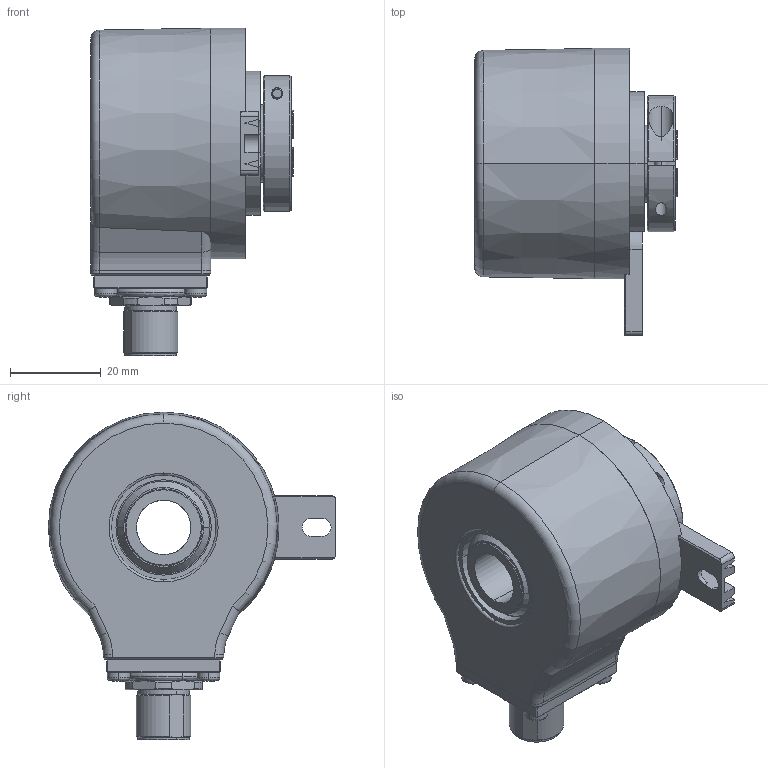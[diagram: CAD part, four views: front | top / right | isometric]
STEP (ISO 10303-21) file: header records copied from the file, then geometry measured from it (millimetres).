
FILE_DESCRIPTION (( 'STEP AP203' ), '1' );
FILE_NAME ('8.5020.257R.XXXX.STEP', '2017-04-05T12:06:19', ( '' ), ( '' ), 'SwSTEP 2.0', 'SolidWorks 2017', '' );
FILE_SCHEMA (( 'CONFIG_CONTROL_DESIGN' ));
Length unit declared in the file: millimetre
Products named in the file (1): 8.5020.257R.XXXX
Bounding box: 44.7 x 63.3 x 72.2 mm (x, y, z)
Surface area: 38749.7 mm2 (no closed solid volume)
Topology: 0 solids, 23 shells, 817 faces, 2005 edges, 1235 vertices
Faces by surface type: plane 286, cylinder 250, cone 138, torus 69, sphere 48, bspline 26
Entity records: 25847 total; most frequent: CARTESIAN_POINT 6885, DIRECTION 4136, ORIENTED_EDGE 3786, EDGE_CURVE 1901, AXIS2_PLACEMENT_3D 1672, VERTEX_POINT 1181, EDGE_LOOP 948, CIRCLE 880
